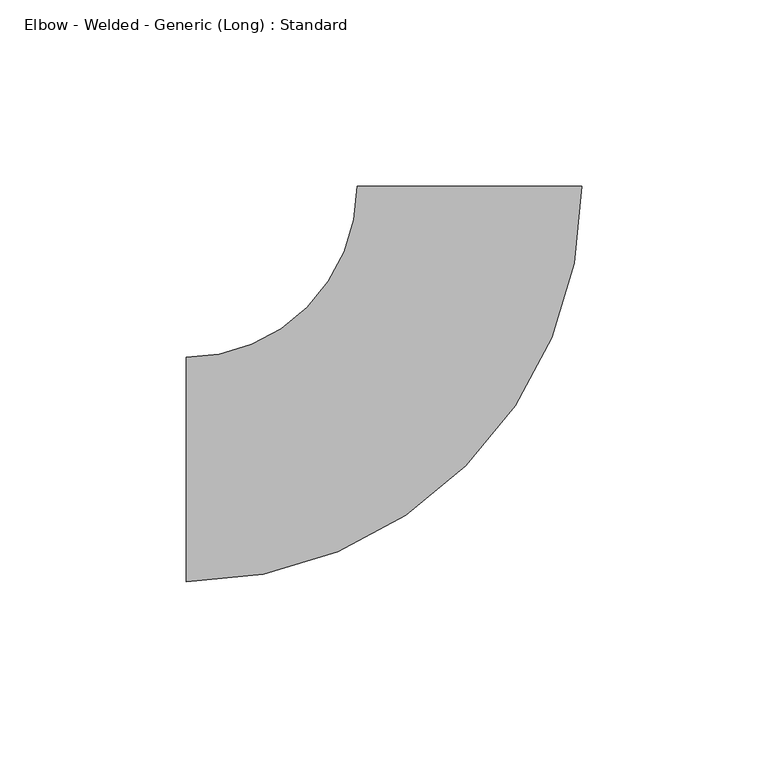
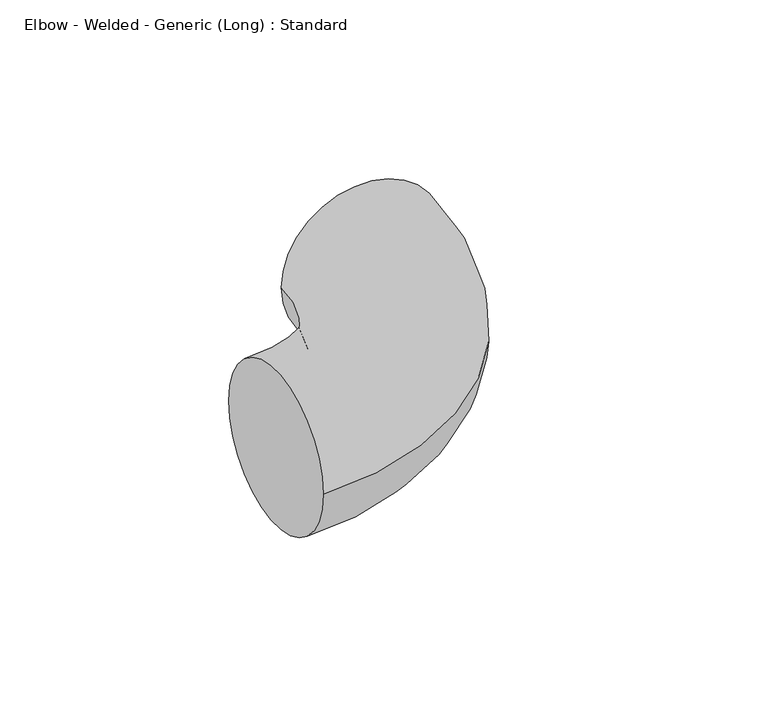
"""IFC4 building model written with IfcOpenShell, lengths in millimetres: pipe fitting geometry, Elbow - Welded - Generic (Long) : Standard."""

from ifc_helpers import new_model, si_unit, point, frame, origin, place, context, project, spatial, circle_curve, ellipse_curve, trimmed, source, transform, mapped, element, save
from ifc_brep_helpers import plane_surface, revolved_surface, advanced_brep


def elbow_welded_generic_long_standard_7381fb69(model_context):
    return source(origin(), model_context, "Body", "AdvancedBrep", [
        advanced_brep(
        [(-76.2, -30.1625, 0.0), (-76.2, 30.1625, 0.0), (30.129813, 76.2129305, 0.0), (-30.1951815, 76.1870555, 0.0)],
        [
            (0, 1, circle_curve(frame((-76.2, 0.0, 0.0), z_axis=(-1.0, 0.0, 0.0), x_axis=(0.0, 1.0, 0.0)), 30.1625)),
            (1, 0, circle_curve(frame((-76.2, 0.0, 0.0), z_axis=(-1.0, 0.0, 0.0), x_axis=(0.0, 1.0, 0.0)), 30.1625)),
            (2, 3, circle_curve(frame((-0.0326842, 76.199993, 0.0), z_axis=(-0.0004289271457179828, 0.9999999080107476, 0.0), x_axis=(-0.9999999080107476, -0.0004289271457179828, 0.0)), 30.1625)),
            (3, 2, circle_curve(frame((-0.0326842, 76.199993, 0.0), z_axis=(-0.0004289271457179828, 0.9999999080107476, 0.0), x_axis=(-0.9999999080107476, -0.0004289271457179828, 0.0)), 30.1625)),
            (3, 1, circle_curve(frame((-76.2, 76.1673228, 0.0), z_axis=(0.0, 0.0, -1.0), x_axis=(0.0, -1.0, 0.0)), 46.0048228)),
            (0, 2, circle_curve(frame((-76.2, 76.1673228, 0.0), z_axis=(0.0, 0.0, 1.0), x_axis=(0.0, -1.0, 0.0)), 106.3298228)),
        ],
        [
            plane_surface(frame((-76.2, 0.0, 0.0), z_axis=(-1.0, 0.0, 0.0), x_axis=(0.0, 0.0, 1.0))),
            plane_surface(frame((-0.0326842, 76.199993, 0.0), z_axis=(-0.00042892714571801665, 0.9999999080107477, 0.0), x_axis=(0.0, 0.0, 1.0))),
            revolved_surface(trimmed(ellipse_curve(frame((-76.2, 0.0, 0.0), z_axis=(-1.0, 0.0, 0.0), x_axis=(0.0, 1.0, 0.0)), 30.1625, 30.1625), [point((-76.2, -30.1625, 0.0))], [point((-76.2, 30.1625, 0.0))], True, "CARTESIAN"), (-76.2, 76.1673228, 0.0), (0.0, 0.0, 1.0)),
            revolved_surface(trimmed(ellipse_curve(frame((-76.2, 0.0, 0.0), z_axis=(-1.0, 0.0, 0.0), x_axis=(0.0, 1.0, 0.0)), 30.1625, 30.1625), [point((-76.2, 30.1625, 0.0))], [point((-76.2, -30.1625, 0.0))], True, "CARTESIAN"), (-76.2, 76.1673228, 0.0), (0.0, 0.0, 1.0)),
        ],
        [
            (0, [[1, 2]]),
            (1, [[3, 4]]),
            (2, [[5, -1, 6, -4]]),
            (3, [[-6, -2, -5, -3]]),
        ],
    ),
    ])


if __name__ == "__main__":
    model = new_model("IFC4")
    model_context = context("Model", 3, world=origin())
    ifc_project = project(units=[si_unit("LENGTHUNIT", "METRE", prefix="MILLI")], contexts=[model_context])
    site = spatial("IfcSite", under=ifc_project)
    building = spatial("IfcBuilding", under=site)
    placement = place(None, origin())
    elbow_welded_generic_long_standard_shape = elbow_welded_generic_long_standard_7381fb69(model_context)
    element("IfcPipeFitting", 1, ObjectType="Elbow - Welded - Generic (Long) : Standard", at=placement, inside=building, context=model_context, shape_type="MappedRepresentation", body=[
        mapped(elbow_welded_generic_long_standard_shape, transform((0.0, 0.0, 0.0), x_axis=(1.0, 0.0, 0.0), y_axis=(0.0, 1.0, 0.0), z_axis=(0.0, 0.0, 1.0))),
    ])
    save(model, "model.ifc")
